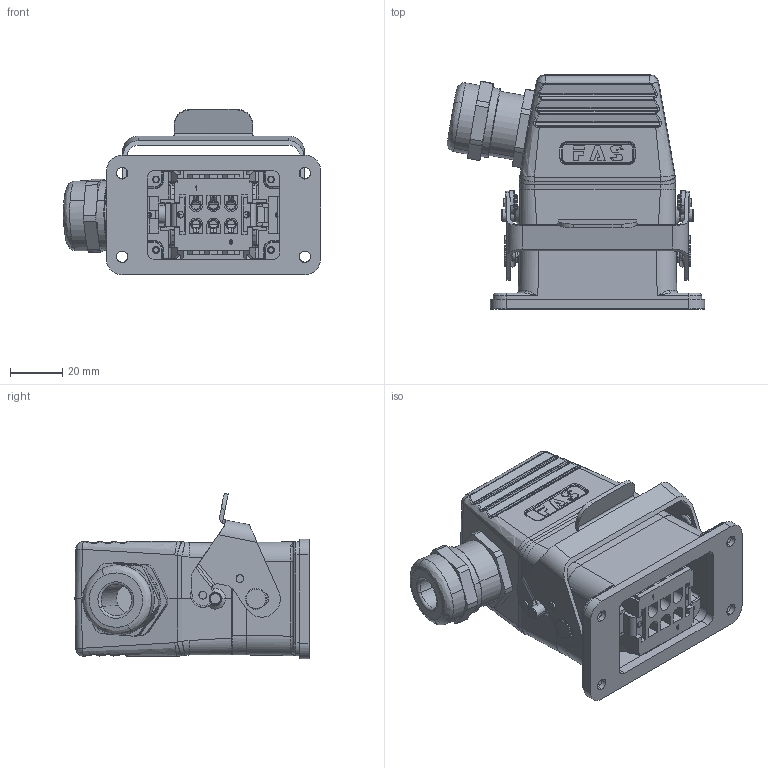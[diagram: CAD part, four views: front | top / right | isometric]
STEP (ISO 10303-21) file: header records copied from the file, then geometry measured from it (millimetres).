
FILE_DESCRIPTION (( 'STEP AP214' ), '1' );
FILE_NAME ('09006101120M HE、6针、开孔底座、侧出M20套件+金属接头.STEP', '2024-04-26T02:04:56', ( 'L' ), ( '' ), 'SwSTEP 2.0', 'SolidWorks 2019', '' );
FILE_SCHEMA (( 'AUTOMOTIVE_DESIGN' ));
Length unit declared in the file: millimetre
Products named in the file (15): asm0002.STEP; H6B-TS-M20.step; h6bmifengdian.STEP; HE-006-M.stp; 09006101120M HE、6针、开孔底座、侧出M20套件+金属接头; maoding1.STEP; maoding.STEP; m00607-1.STEP; HE-006-F.stp; prt0001.STEP; tanhuang.STEP; kahuan.STEP; FAS-20-M.step; H6B-AG.STEP; 6bdankou.STEP
Assembly tree (20 placements, depth 4):
  09006101120M HE、6针、开孔底座、侧出M20套件+金属接头
    H6B-AG.STEP
      asm0002.STEP
        6bdankou.STEP
        kahuan.STEP  x2
        maoding1.STEP  x4
        tanhuang.STEP  x2
        maoding.STEP  x2
      m00607-1.STEP
      h6bmifengdian.STEP
      prt0001.STEP
    H6B-TS-M20.step
    HE-006-F.stp
    HE-006-M.stp
    FAS-20-M.step
Bounding box: 98.48 x 89.6 x 63.39 mm (x, y, z)
Volume: 138888.8 mm3; surface area: 90440.7 mm2
Topology: 21 solids, 27 shells, 3584 faces, 9362 edges, 5942 vertices
Faces by surface type: plane 1675, cylinder 865, bspline 697, cone 252, torus 73, sphere 22
Entity records: 149651 total; most frequent: CARTESIAN_POINT 56356, ORIENTED_EDGE 18184, DIRECTION 14721, EDGE_CURVE 9108, VERTEX_POINT 5807, VECTOR 5083, LINE 5083, AXIS2_PLACEMENT_3D 4819
